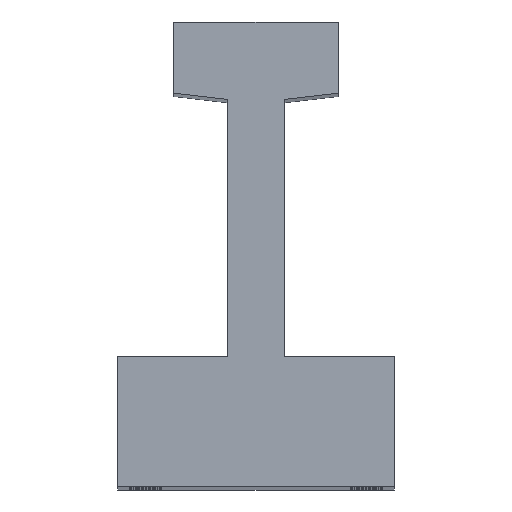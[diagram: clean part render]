
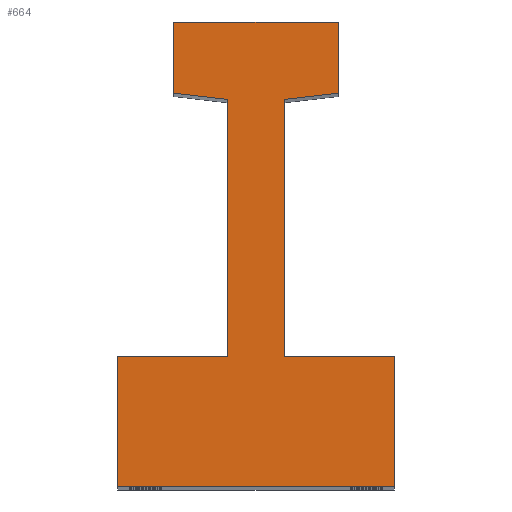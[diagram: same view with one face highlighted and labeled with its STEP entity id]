
A CAD part, top view. The second image highlights one B-rep face of the part: STEP entity #664.
In plain terms, the highlighted planar face has unit normal (0, 0, 1).
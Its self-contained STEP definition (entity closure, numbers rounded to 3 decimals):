
#19 = LINE ( 'NONE', #2209, #3246 ) ;
#177 = VECTOR ( 'NONE', #1299, 1000. ) ;
#196 = EDGE_CURVE ( 'NONE', #2386, #1078, #2588, .T. ) ;
#267 = CARTESIAN_POINT ( 'NONE',  ( -10.4, 49.8, 241. ) ) ;
#283 = CARTESIAN_POINT ( 'NONE',  ( 3.55, 16.5, 241. ) ) ;
#312 = CARTESIAN_POINT ( 'NONE',  ( -10.4, 58.8, 241. ) ) ;
#356 = CARTESIAN_POINT ( 'NONE',  ( 17.5, 0., 241. ) ) ;
#368 = CARTESIAN_POINT ( 'NONE',  ( 10.4, 58.8, 241. ) ) ;
#377 = VERTEX_POINT ( 'NONE', #368 ) ;
#567 = LINE ( 'NONE', #3217, #1423 ) ;
#582 = ORIENTED_EDGE ( 'NONE', *, *, #196, .T. ) ;
#589 = DIRECTION ( 'NONE',  ( 1., 0., 0. ) ) ;
#595 = EDGE_CURVE ( 'NONE', #1819, #1139, #1654, .T. ) ;
#618 = LINE ( 'NONE', #1914, #2553 ) ;
#637 = DIRECTION ( 'NONE',  ( 0., 1., 0. ) ) ;
#664 = ADVANCED_FACE ( 'NONE', ( #2729 ), #2244, .F. ) ;
#670 = CARTESIAN_POINT ( 'NONE',  ( 3.55, 49., 241. ) ) ;
#713 = EDGE_CURVE ( 'NONE', #2483, #1819, #2042, .T. ) ;
#723 = VERTEX_POINT ( 'NONE', #283 ) ;
#822 = ORIENTED_EDGE ( 'NONE', *, *, #2522, .T. ) ;
#877 = LINE ( 'NONE', #2057, #177 ) ;
#914 = VECTOR ( 'NONE', #3003, 1000. ) ;
#943 = EDGE_CURVE ( 'NONE', #723, #2099, #567, .T. ) ;
#994 = DIRECTION ( 'NONE',  ( 0., 0., -1. ) ) ;
#998 = EDGE_CURVE ( 'NONE', #2449, #723, #618, .T. ) ;
#1010 = VECTOR ( 'NONE', #589, 1000. ) ;
#1024 = VERTEX_POINT ( 'NONE', #2148 ) ;
#1035 = EDGE_LOOP ( 'NONE', ( #582, #2063, #2606, #1592, #1847, #822, #1903, #2958, #2130, #1564, #1113, #2774 ) ) ;
#1078 = VERTEX_POINT ( 'NONE', #356 ) ;
#1098 = EDGE_CURVE ( 'NONE', #1078, #2449, #2008, .T. ) ;
#1113 = ORIENTED_EDGE ( 'NONE', *, *, #1259, .T. ) ;
#1114 = DIRECTION ( 'NONE',  ( 0.993, 0.116, 0. ) ) ;
#1137 = DIRECTION ( 'NONE',  ( 0., 1., 0. ) ) ;
#1139 = VERTEX_POINT ( 'NONE', #2986 ) ;
#1168 = VECTOR ( 'NONE', #1325, 1000. ) ;
#1202 = DIRECTION ( 'NONE',  ( -1., 0., 0. ) ) ;
#1259 = EDGE_CURVE ( 'NONE', #2350, #3196, #877, .T. ) ;
#1269 = CARTESIAN_POINT ( 'NONE',  ( -3.55, 49., 241. ) ) ;
#1299 = DIRECTION ( 'NONE',  ( -1., 0., 0. ) ) ;
#1308 = VECTOR ( 'NONE', #1114, 1000. ) ;
#1325 = DIRECTION ( 'NONE',  ( 0., -1., 0. ) ) ;
#1326 = VECTOR ( 'NONE', #3247, 1000. ) ;
#1336 = VECTOR ( 'NONE', #637, 1000. ) ;
#1366 = CARTESIAN_POINT ( 'NONE',  ( 17.5, 0., 241. ) ) ;
#1407 = LINE ( 'NONE', #2062, #2121 ) ;
#1423 = VECTOR ( 'NONE', #3155, 1000. ) ;
#1498 = CARTESIAN_POINT ( 'NONE',  ( -17.5, 16.5, 241. ) ) ;
#1529 = CARTESIAN_POINT ( 'NONE',  ( -10.4, 58.8, 241. ) ) ;
#1564 = ORIENTED_EDGE ( 'NONE', *, *, #2959, .T. ) ;
#1592 = ORIENTED_EDGE ( 'NONE', *, *, #943, .T. ) ;
#1654 = LINE ( 'NONE', #1269, #1326 ) ;
#1717 = DIRECTION ( 'NONE',  ( 0., -1., 0. ) ) ;
#1748 = AXIS2_PLACEMENT_3D ( 'NONE', #2224, #994, #3264 ) ;
#1819 = VERTEX_POINT ( 'NONE', #3296 ) ;
#1847 = ORIENTED_EDGE ( 'NONE', *, *, #2569, .T. ) ;
#1903 = ORIENTED_EDGE ( 'NONE', *, *, #2416, .T. ) ;
#1914 = CARTESIAN_POINT ( 'NONE',  ( 3.55, 16.5, 241. ) ) ;
#1950 = LINE ( 'NONE', #3106, #2410 ) ;
#2008 = LINE ( 'NONE', #2902, #1336 ) ;
#2042 = LINE ( 'NONE', #267, #1168 ) ;
#2057 = CARTESIAN_POINT ( 'NONE',  ( -17.5, 16.5, 241. ) ) ;
#2062 = CARTESIAN_POINT ( 'NONE',  ( -3.55, 16.5, 241. ) ) ;
#2063 = ORIENTED_EDGE ( 'NONE', *, *, #1098, .T. ) ;
#2065 = LINE ( 'NONE', #2604, #1308 ) ;
#2099 = VERTEX_POINT ( 'NONE', #670 ) ;
#2121 = VECTOR ( 'NONE', #2833, 1000. ) ;
#2130 = ORIENTED_EDGE ( 'NONE', *, *, #595, .T. ) ;
#2148 = CARTESIAN_POINT ( 'NONE',  ( 10.4, 49.8, 241. ) ) ;
#2166 = CARTESIAN_POINT ( 'NONE',  ( -17.5, 0., 241. ) ) ;
#2209 = CARTESIAN_POINT ( 'NONE',  ( -17.5, 0., 241. ) ) ;
#2224 = CARTESIAN_POINT ( 'NONE',  ( 0., 0., 241. ) ) ;
#2244 = PLANE ( 'NONE',  #1748 ) ;
#2350 = VERTEX_POINT ( 'NONE', #3091 ) ;
#2386 = VERTEX_POINT ( 'NONE', #2166 ) ;
#2410 = VECTOR ( 'NONE', #1137, 1000. ) ;
#2416 = EDGE_CURVE ( 'NONE', #377, #2483, #2491, .T. ) ;
#2449 = VERTEX_POINT ( 'NONE', #2869 ) ;
#2483 = VERTEX_POINT ( 'NONE', #312 ) ;
#2491 = LINE ( 'NONE', #1529, #914 ) ;
#2522 = EDGE_CURVE ( 'NONE', #1024, #377, #1950, .T. ) ;
#2553 = VECTOR ( 'NONE', #1202, 1000. ) ;
#2569 = EDGE_CURVE ( 'NONE', #2099, #1024, #2065, .T. ) ;
#2588 = LINE ( 'NONE', #1366, #1010 ) ;
#2604 = CARTESIAN_POINT ( 'NONE',  ( 10.4, 49.8, 241. ) ) ;
#2606 = ORIENTED_EDGE ( 'NONE', *, *, #998, .T. ) ;
#2729 = FACE_OUTER_BOUND ( 'NONE', #1035, .T. ) ;
#2774 = ORIENTED_EDGE ( 'NONE', *, *, #3256, .T. ) ;
#2833 = DIRECTION ( 'NONE',  ( 0., -1., 0. ) ) ;
#2869 = CARTESIAN_POINT ( 'NONE',  ( 17.5, 16.5, 241. ) ) ;
#2902 = CARTESIAN_POINT ( 'NONE',  ( 17.5, 16.5, 241. ) ) ;
#2958 = ORIENTED_EDGE ( 'NONE', *, *, #713, .T. ) ;
#2959 = EDGE_CURVE ( 'NONE', #1139, #2350, #1407, .T. ) ;
#2986 = CARTESIAN_POINT ( 'NONE',  ( -3.55, 49., 241. ) ) ;
#3003 = DIRECTION ( 'NONE',  ( -1., 0., 0. ) ) ;
#3091 = CARTESIAN_POINT ( 'NONE',  ( -3.55, 16.5, 241. ) ) ;
#3106 = CARTESIAN_POINT ( 'NONE',  ( 10.4, 58.8, 241. ) ) ;
#3155 = DIRECTION ( 'NONE',  ( 0., 1., 0. ) ) ;
#3196 = VERTEX_POINT ( 'NONE', #1498 ) ;
#3217 = CARTESIAN_POINT ( 'NONE',  ( 3.55, 49., 241. ) ) ;
#3246 = VECTOR ( 'NONE', #1717, 1000. ) ;
#3247 = DIRECTION ( 'NONE',  ( 0.993, -0.116, 0. ) ) ;
#3256 = EDGE_CURVE ( 'NONE', #3196, #2386, #19, .T. ) ;
#3264 = DIRECTION ( 'NONE',  ( -1., 0., 0. ) ) ;
#3296 = CARTESIAN_POINT ( 'NONE',  ( -10.4, 49.8, 241. ) ) ;
